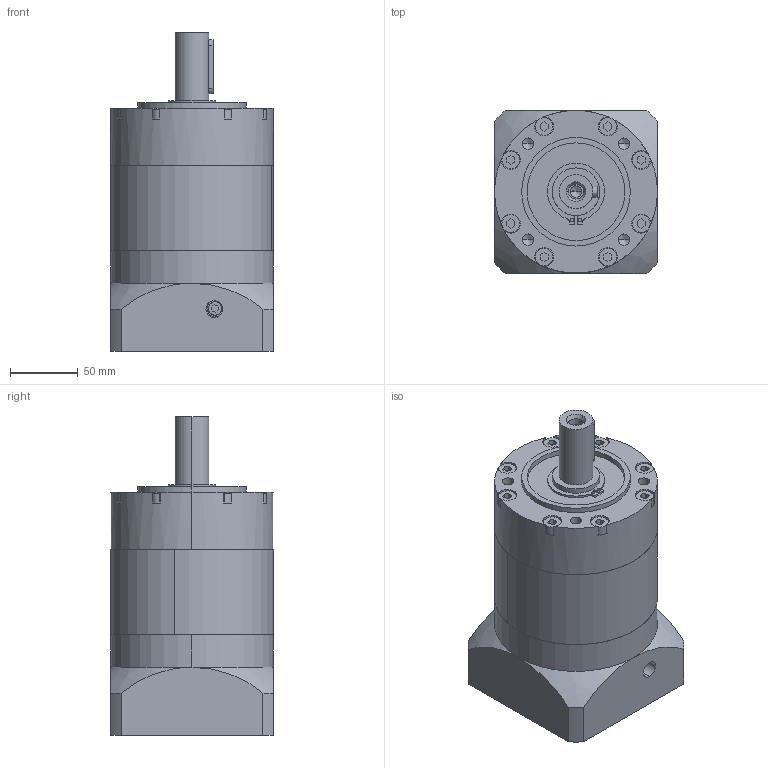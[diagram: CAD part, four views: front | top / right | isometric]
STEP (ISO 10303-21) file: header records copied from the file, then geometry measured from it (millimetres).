
FILE_DESCRIPTION (( 'STEP AP214' ), '1' );
FILE_NAME ('PRL120-L2 目录1.STEP', '2020-09-16T05:10:35', ( '微软用户' ), ( '微软中国' ), 'SwSTEP 2.0', 'SolidWorks 2014', '' );
FILE_SCHEMA (( 'AUTOMOTIVE_DESIGN' ));
Length unit declared in the file: millimetre
Products named in the file (15): 粣創-6007 40x68x15; 邧埴瑩 8x7x40; PLE120 狟屳唳; PLE120 內齿圈_二级内齿圈; PLE120 蟀諉啣-準梓-芞醱; 囀鞠褒蹟佪 M6x20; PLE120 奻屳唳; PRL120-L2 Ŀ¼1
Assembly tree (7 placements, depth 2):
  粣創-6007 40x68x15
  邧埴瑩 8x7x40
  PLE120 狟屳唳
  PLE120 內齿圈_二级内齿圈
  PLE120 蟀諉啣-準梓-芞醱
Bounding box: 120 x 120 x 234.5 mm (x, y, z)
Volume: 1959417.8 mm3; surface area: 237807.1 mm2
Topology: 7 solids, 15 shells, 546 faces, 1450 edges, 934 vertices
Faces by surface type: plane 191, cylinder 185, bspline 148, cone 22
Entity records: 28526 total; most frequent: CARTESIAN_POINT 9450, ORIENTED_EDGE 2832, DIRECTION 2417, EDGE_CURVE 1416, AXIS2_PLACEMENT_3D 983, VERTEX_POINT 926, EDGE_LOOP 640, CIRCLE 574
